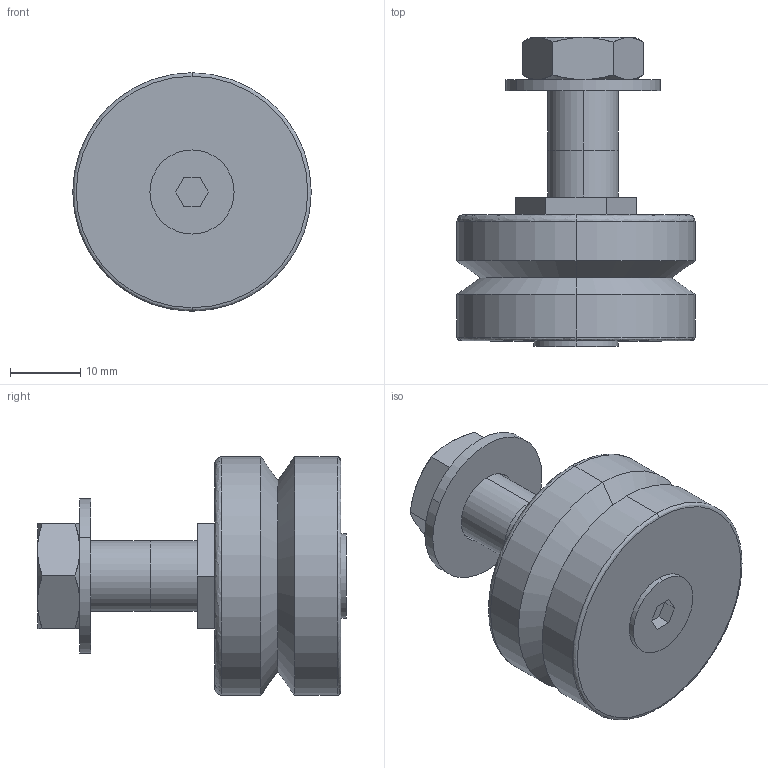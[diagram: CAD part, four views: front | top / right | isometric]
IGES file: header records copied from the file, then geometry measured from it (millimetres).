
Start section: 3D InterOp IGES (Version 21 0 1), Spatial Corp. Copyright (c) 1999-2007.
Global section: file name: NAL-34-E.igs; native system: Spatial Corp.; preprocessor: 3D InterOp GENERIC/IGES 3.0; author: Noname; organization: Noname; date: 20220311.162846; units: millimetre
Bounding box: 34 x 44.05 x 34 mm (x, y, z)
Surface area: 6343.4 mm2 (no closed solid volume)
Topology: 0 solids, 0 shells, 74 faces, 328 edges, 328 vertices
Faces by surface type: revolution 40, extrusion 34
